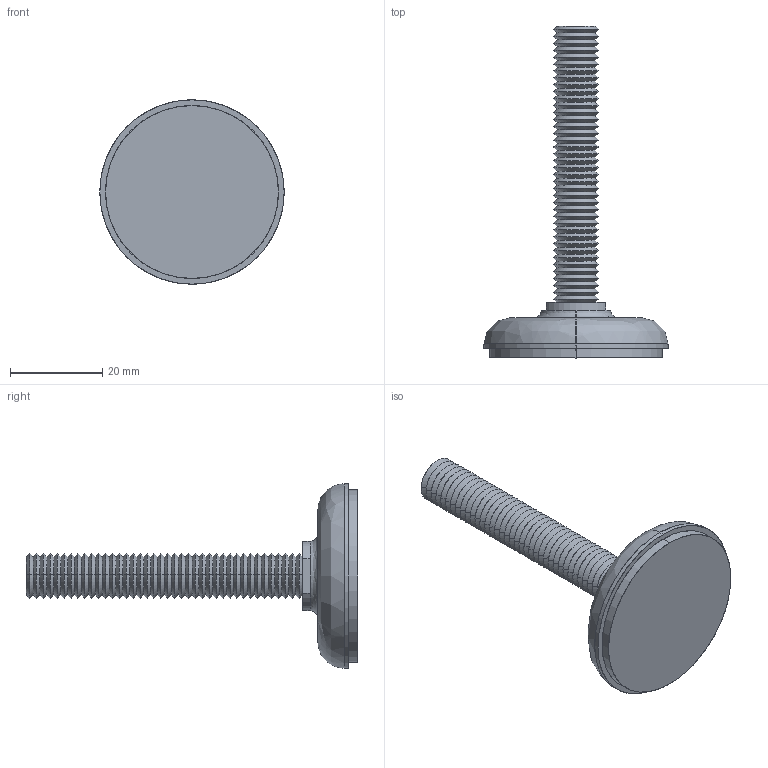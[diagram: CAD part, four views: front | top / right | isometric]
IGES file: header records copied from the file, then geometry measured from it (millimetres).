
Start section: SolidWorks IGES file using analytic representation for surfaces
Global section: file name: C:\Documents and Settings\IANO\Desktop\Temp File\Process pending\EXISTING\34780_v2\34780_v2_20170626_IGES\34780.W0102.igs; native system: SolidWorks 2009; preprocessor: SolidWorks 2009; author: IANO; date: 170626.122201; units: millimetre
Bounding box: 40 x 72 x 40 mm (x, y, z)
Surface area: 12485 mm2 (no closed solid volume)
Topology: 0 solids, 0 shells, 224 faces, 1842 edges, 1842 vertices
Faces by surface type: revolution 196, bspline 28
